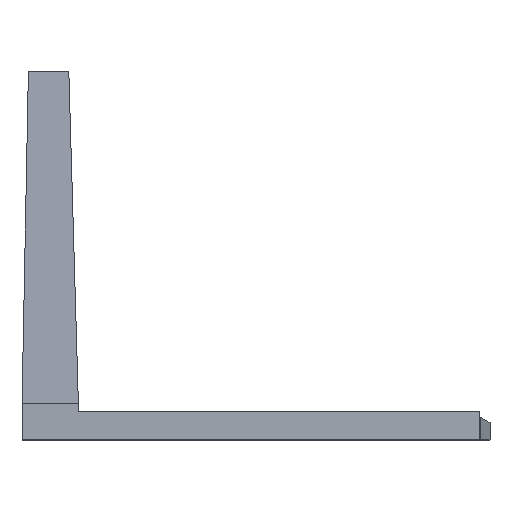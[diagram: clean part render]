
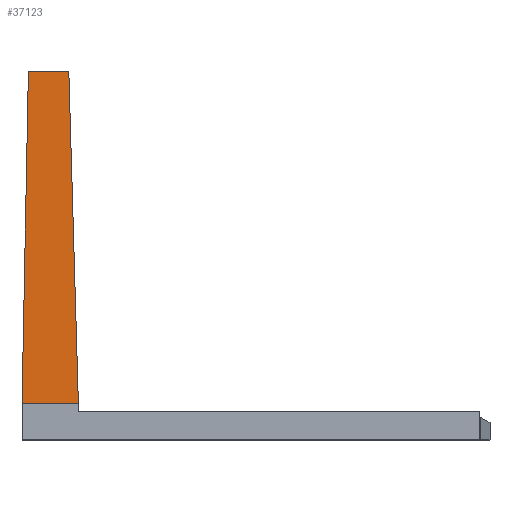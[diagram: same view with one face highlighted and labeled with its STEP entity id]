
A CAD part, top view. The second image highlights one B-rep face of the part: STEP entity #37123.
In plain terms, the highlighted planar face has unit normal (0, 0.019, 1).
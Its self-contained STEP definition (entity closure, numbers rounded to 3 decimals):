
#282 = CARTESIAN_POINT ( 'NONE',  ( 24.25, 95.001, -1.5 ) ) ;
#3117 = LINE ( 'NONE', #4934, #64689 ) ;
#3545 = VERTEX_POINT ( 'NONE', #15361 ) ;
#4934 = CARTESIAN_POINT ( 'NONE',  ( 3., 173., -3. ) ) ;
#5823 = DIRECTION ( 'NONE',  ( 0.019, 1., -0.019 ) ) ;
#15361 = CARTESIAN_POINT ( 'NONE',  ( 0., 17.001, 0. ) ) ;
#16265 = VERTEX_POINT ( 'NONE', #40156 ) ;
#20587 = CARTESIAN_POINT ( 'NONE',  ( 3., 173., -3. ) ) ;
#24548 = VERTEX_POINT ( 'NONE', #20587 ) ;
#27288 = CARTESIAN_POINT ( 'NONE',  ( 1.5, 95.001, -1.5 ) ) ;
#36932 = VECTOR ( 'NONE', #52760, 1000. ) ;
#37123 = ADVANCED_FACE ( 'NONE', ( #72804 ), #63595, .T. ) ;
#40156 = CARTESIAN_POINT ( 'NONE',  ( 22., 173., -3. ) ) ;
#50398 = ORIENTED_EDGE ( 'NONE', *, *, #119443, .T. ) ;
#50425 = DIRECTION ( 'NONE',  ( 1., 0., 0. ) ) ;
#50697 = EDGE_CURVE ( 'NONE', #62410, #16265, #64815, .T. ) ;
#51654 = CARTESIAN_POINT ( 'NONE',  ( 26.5, 17.001, 0. ) ) ;
#52760 = DIRECTION ( 'NONE',  ( 1., 0., 0. ) ) ;
#62410 = VERTEX_POINT ( 'NONE', #51654 ) ;
#63595 = PLANE ( 'NONE',  #75558 ) ;
#64689 = VECTOR ( 'NONE', #50425, 1000. ) ;
#64811 = CARTESIAN_POINT ( 'NONE',  ( 0., 17.001, 0. ) ) ;
#64815 = LINE ( 'NONE', #282, #100612 ) ;
#72804 = FACE_OUTER_BOUND ( 'NONE', #96083, .T. ) ;
#75558 = AXIS2_PLACEMENT_3D ( 'NONE', #64811, #90663, #102302 ) ;
#76301 = EDGE_CURVE ( 'NONE', #24548, #16265, #3117, .T. ) ;
#80801 = LINE ( 'NONE', #27288, #88395 ) ;
#81015 = CARTESIAN_POINT ( 'NONE',  ( 0., 17.001, 0. ) ) ;
#88395 = VECTOR ( 'NONE', #5823, 1000. ) ;
#89042 = LINE ( 'NONE', #81015, #36932 ) ;
#90663 = DIRECTION ( 'NONE',  ( 0., 0.019, 1. ) ) ;
#92046 = ORIENTED_EDGE ( 'NONE', *, *, #50697, .T. ) ;
#94062 = ORIENTED_EDGE ( 'NONE', *, *, #95473, .F. ) ;
#95473 = EDGE_CURVE ( 'NONE', #3545, #24548, #80801, .T. ) ;
#96083 = EDGE_LOOP ( 'NONE', ( #50398, #92046, #101686, #94062 ) ) ;
#100612 = VECTOR ( 'NONE', #102305, 1000. ) ;
#101686 = ORIENTED_EDGE ( 'NONE', *, *, #76301, .F. ) ;
#102302 = DIRECTION ( 'NONE',  ( 1., 0., 0. ) ) ;
#102305 = DIRECTION ( 'NONE',  ( -0.029, 0.999, -0.019 ) ) ;
#119443 = EDGE_CURVE ( 'NONE', #3545, #62410, #89042, .T. ) ;
